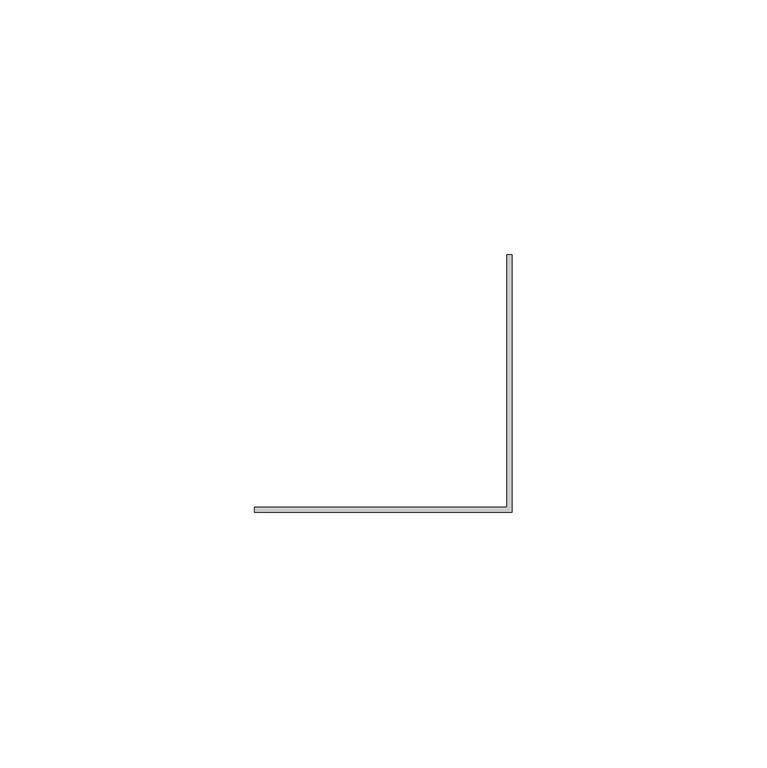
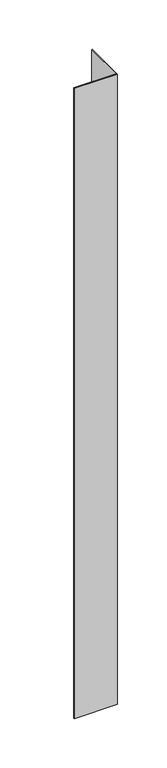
"""IFC4 building model written with IfcOpenShell, lengths in millimetres: member geometry, Meneau d'angle en L : ATELIERS 3S_Angle rentrant."""

from ifc_helpers import new_model, si_unit, frame, origin, place, context, project, spatial, polyline, outline, extrude, source, transform, mapped, element, save


def member_4aaa3c14(model_context):
    return source(origin(), model_context, "Body", "SweptSolid", [
        extrude(outline(polyline([(0.0, 50.5), (0.0, 0.0), (-50.5, 0.0), (-50.5, 1.0), (-1.0, 1.0), (-1.0, 50.5), (0.0, 50.5)])), frame((0.0, 0.0, -780.0), z_axis=(0.0, 0.0, 1.0), x_axis=(1.0, 0.0, 0.0)), (0.0, 0.0, 1.0), 780.0),
    ])


if __name__ == "__main__":
    model = new_model("IFC4")
    model_context = context("Model", 3, world=origin())
    ifc_project = project(units=[si_unit("LENGTHUNIT", "METRE", prefix="MILLI")], contexts=[model_context])
    site = spatial("IfcSite", under=ifc_project)
    building = spatial("IfcBuilding", under=site)
    placement = place(None, origin())
    member_shape = member_4aaa3c14(model_context)
    element("IfcMember", 1, ObjectType="Meneau d'angle en L : ATELIERS 3S_Angle rentrant", at=placement, inside=building, context=model_context, shape_type="MappedRepresentation", body=[
        mapped(member_shape, transform((0.0, 0.0, 0.0), x_axis=(1.0, 0.0, 0.0), y_axis=(0.0, 1.0, 0.0), z_axis=(0.0, 0.0, 1.0))),
    ])
    save(model, "model.ifc")
